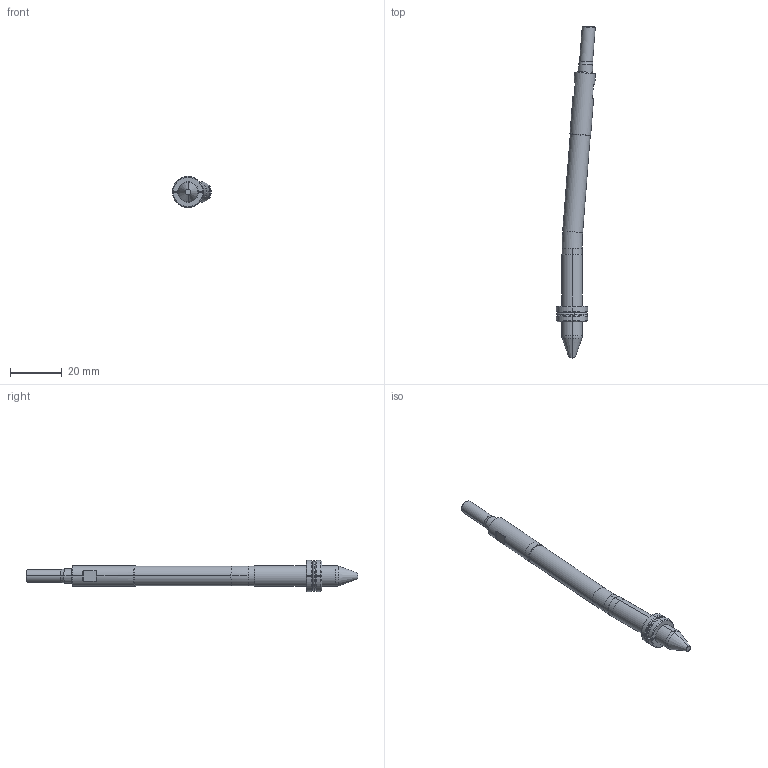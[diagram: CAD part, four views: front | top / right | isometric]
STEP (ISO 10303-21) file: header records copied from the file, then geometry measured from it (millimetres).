
FILE_DESCRIPTION (( 'STEP AP214' ), '1' );
FILE_NAME ('WP080030-EJE 4,5°.STEP', '2021-03-19T15:18:42', ( '' ), ( '' ), 'SwSTEP 2.0', 'SolidWorks 2019', '' );
FILE_SCHEMA (( 'AUTOMOTIVE_DESIGN' ));
Length unit declared in the file: millimetre
Products named in the file (6): Web-WP08-F_WP08-F-ON 4,5ø; Web-WP08-6; Web-WP08-2; WP080030-EJE 4,5°; Web-WP08-1; Web-WP08-7
Assembly tree (5 placements, depth 2):
  WP080030-EJE 4,5°
    Web-WP08-1
    Web-WP08-F_WP08-F-ON 4,5ø
    Web-WP08-2
    Web-WP08-6
    Web-WP08-7
Bounding box: 15.04 x 127.92 x 12 mm (x, y, z)
Volume: 5841 mm3; surface area: 4095.1 mm2
Topology: 6 solids, 6 shells, 121 faces, 280 edges, 174 vertices
Faces by surface type: cylinder 36, plane 29, cone 28, torus 28
Entity records: 3977 total; most frequent: CARTESIAN_POINT 767, DIRECTION 652, ORIENTED_EDGE 560, AXIS2_PLACEMENT_3D 283, EDGE_CURVE 280, VERTEX_POINT 174, CIRCLE 154, EDGE_LOOP 126
